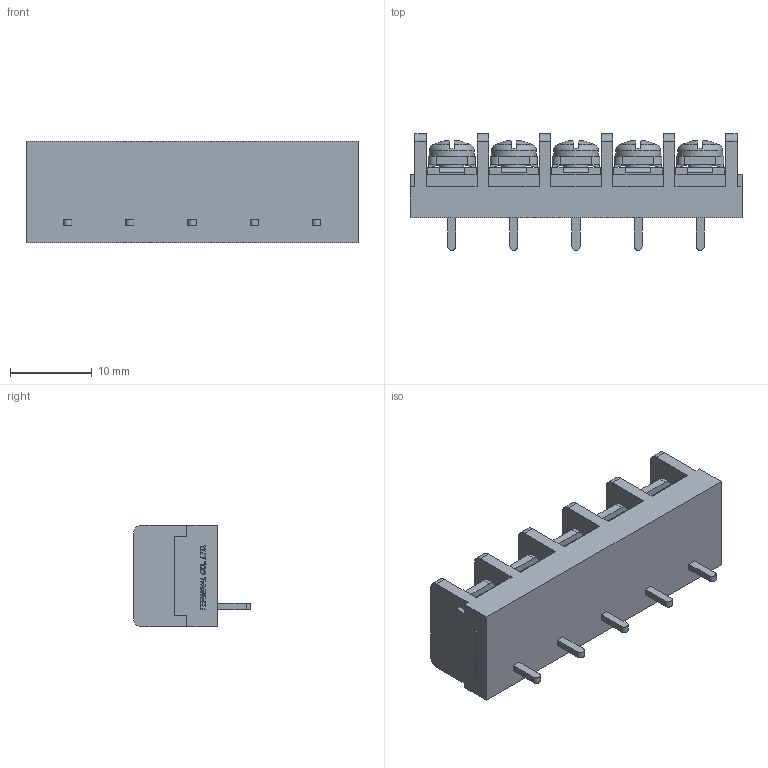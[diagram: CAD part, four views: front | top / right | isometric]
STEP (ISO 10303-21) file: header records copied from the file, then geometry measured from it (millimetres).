
FILE_DESCRIPTION(/* description */ ('Alibre Inc.'),/* implementation_level */ '2;1');
FILE_NAME(/* name */ 'export0',/* time_stamp */ '2015-10-26T17:23:18+09:00',/* author */ (''),/* organization */ (''),/* preprocessor_version */ 'ST-DEVELOPER v14',/* originating_system */ 'Alibre',/* authorisation */ '');
FILE_SCHEMA (('CONFIG_CONTROL_DESIGN'));
Length unit declared in the file: centimetre
Products named in the file (1): ID_1
Bounding box: 40.72 x 14.3 x 12.5 mm (x, y, z)
Volume: 3686.8 mm3; surface area: 3405.5 mm2
Topology: 1 solids, 1 shells, 876 faces, 2397 edges, 1583 vertices
Faces by surface type: plane 670, bspline 104, cylinder 62, cone 20, torus 10, sphere 10
Full cylindrical faces by diameter (mm): 3 x5, 5.5 x5
Entity records: 26490 total; most frequent: CARTESIAN_POINT 6080, ORIENTED_EDGE 4714, DIRECTION 3101, EDGE_CURVE 2357, VECTOR 1720, LINE 1720, VERTEX_POINT 1563, AXIS2_PLACEMENT_3D 999
